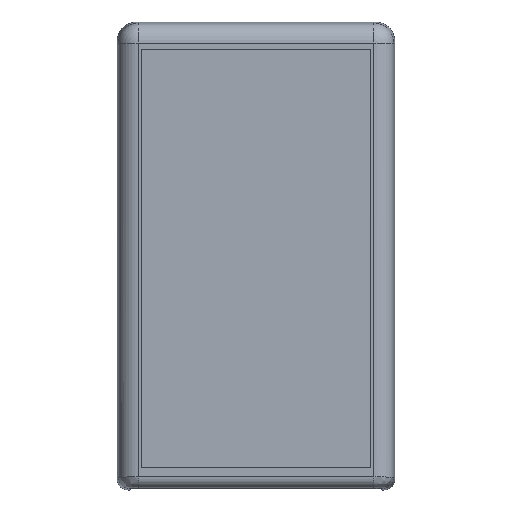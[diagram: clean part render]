
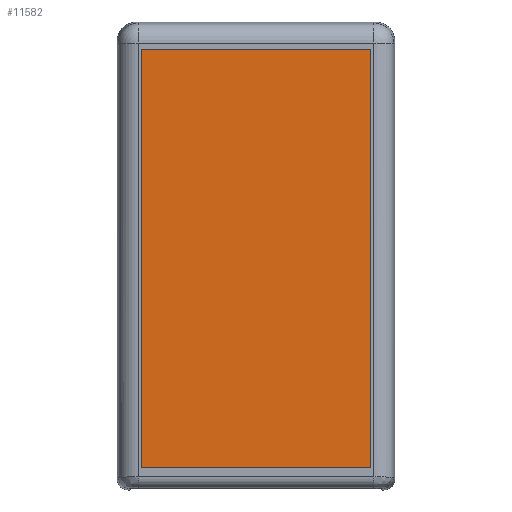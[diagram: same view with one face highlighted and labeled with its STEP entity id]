
A CAD part, top view. The second image highlights one B-rep face of the part: STEP entity #11582.
In plain terms, the highlighted planar face has unit normal (0, 0, 1) as drawn and (0, 0, -1) by its records, which use the part's own axes.
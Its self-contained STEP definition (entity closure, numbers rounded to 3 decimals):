
#505=PLANE('',#12375);
#1350=LINE('',#20700,#2385);
#1354=LINE('',#20708,#2389);
#1357=LINE('',#20714,#2392);
#1360=LINE('',#20719,#2395);
#2385=VECTOR('',#14544,55.);
#2389=VECTOR('',#14550,100.);
#2392=VECTOR('',#14555,55.);
#2395=VECTOR('',#14560,100.);
#3337=FACE_OUTER_BOUND('',#4118,.T.);
#4118=EDGE_LOOP('',(#9777,#9778,#9779,#9780));
#5687=VERTEX_POINT('',#20698);
#5688=VERTEX_POINT('',#20699);
#5691=VERTEX_POINT('',#20707);
#5693=VERTEX_POINT('',#20713);
#7121=EDGE_CURVE('',#5687,#5688,#1350,.T.);
#7125=EDGE_CURVE('',#5688,#5691,#1354,.T.);
#7128=EDGE_CURVE('',#5691,#5693,#1357,.T.);
#7131=EDGE_CURVE('',#5693,#5687,#1360,.T.);
#9777=ORIENTED_EDGE('',*,*,#7121,.T.);
#9778=ORIENTED_EDGE('',*,*,#7125,.T.);
#9779=ORIENTED_EDGE('',*,*,#7128,.T.);
#9780=ORIENTED_EDGE('',*,*,#7131,.T.);
#11582=ADVANCED_FACE('',(#3337),#505,.F.);
#12375=AXIS2_PLACEMENT_3D('',#20721,#14562,#14563);
#14544=DIRECTION('',(0.,1.,0.));
#14550=DIRECTION('',(1.,0.,0.));
#14555=DIRECTION('',(0.,-1.,0.));
#14560=DIRECTION('',(-1.,0.,0.));
#14562=DIRECTION('center_axis',(0.,0.,
1.));
#14563=DIRECTION('ref_axis',(1.,0.,0.));
#20698=CARTESIAN_POINT('',(-49.411,-27.5,-11.));
#20699=CARTESIAN_POINT('',(-49.411,27.5,-11.));
#20700=CARTESIAN_POINT('',(-49.411,27.5,-11.));
#20707=CARTESIAN_POINT('',(50.589,27.5,-11.));
#20708=CARTESIAN_POINT('',(50.589,27.5,-11.));
#20713=CARTESIAN_POINT('',(50.589,-27.5,-11.));
#20714=CARTESIAN_POINT('',(50.589,-27.5,-11.));
#20719=CARTESIAN_POINT('',(-49.411,-27.5,-11.));
#20721=CARTESIAN_POINT('Origin',(0.589,0.,
-11.));
